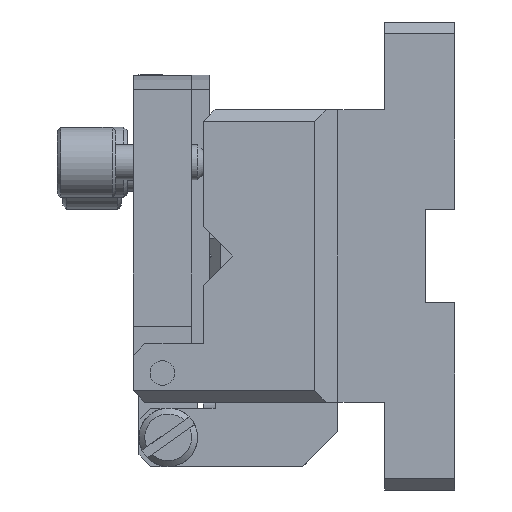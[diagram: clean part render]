
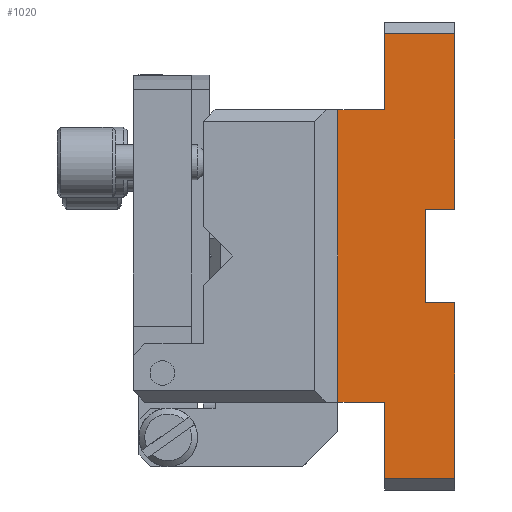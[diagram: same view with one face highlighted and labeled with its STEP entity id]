
A CAD part, left-side view. The second image highlights one B-rep face of the part: STEP entity #1020.
In plain terms, the highlighted planar face has unit normal (-1, 0, 0).
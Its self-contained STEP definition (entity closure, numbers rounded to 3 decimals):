
#5 = ORIENTED_EDGE ( 'NONE', *, *, #6416, .T. ) ;
#93 = VERTEX_POINT ( 'NONE', #11784 ) ;
#157 = CARTESIAN_POINT ( 'NONE',  ( -55., 6., -7.5 ) ) ;
#161 = PLANE ( 'NONE',  #8471 ) ;
#235 = CARTESIAN_POINT ( 'NONE',  ( -55., 10., -7.5 ) ) ;
#600 = EDGE_CURVE ( 'NONE', #1090, #93, #2642, .T. ) ;
#746 = VERTEX_POINT ( 'NONE', #16621 ) ;
#826 = CARTESIAN_POINT ( 'NONE',  ( -55., 0., -24. ) ) ;
#1020 = ADVANCED_FACE ( 'NONE', ( #4606 ), #161, .F. ) ;
#1090 = VERTEX_POINT ( 'NONE', #5988 ) ;
#1283 = VECTOR ( 'NONE', #14408, 1000. ) ;
#1479 = DIRECTION ( 'NONE',  ( 0., -1., 0. ) ) ;
#1593 = ORIENTED_EDGE ( 'NONE', *, *, #600, .T. ) ;
#2061 = ORIENTED_EDGE ( 'NONE', *, *, #17707, .T. ) ;
#2183 = EDGE_CURVE ( 'NONE', #93, #16121, #13012, .T. ) ;
#2216 = CARTESIAN_POINT ( 'NONE',  ( -55., 6., -39. ) ) ;
#2484 = DIRECTION ( 'NONE',  ( 0., 0., 1. ) ) ;
#2512 = VECTOR ( 'NONE', #12161, 1000. ) ;
#2642 = LINE ( 'NONE', #235, #1283 ) ;
#2751 = LINE ( 'NONE', #2216, #2512 ) ;
#2907 = DIRECTION ( 'NONE',  ( 0., 0., -1. ) ) ;
#2920 = ORIENTED_EDGE ( 'NONE', *, *, #12126, .T. ) ;
#2944 = CARTESIAN_POINT ( 'NONE',  ( -55., 2.5, -24. ) ) ;
#3083 = VECTOR ( 'NONE', #16587, 1000. ) ;
#3631 = VERTEX_POINT ( 'NONE', #157 ) ;
#3638 = VECTOR ( 'NONE', #16586, 1000. ) ;
#3743 = ORIENTED_EDGE ( 'NONE', *, *, #10959, .T. ) ;
#3772 = CARTESIAN_POINT ( 'NONE',  ( -55., 2.5, -16. ) ) ;
#3836 = CARTESIAN_POINT ( 'NONE',  ( -55., 0., -16. ) ) ;
#3961 = LINE ( 'NONE', #14354, #17479 ) ;
#4023 = VERTEX_POINT ( 'NONE', #17273 ) ;
#4073 = ORIENTED_EDGE ( 'NONE', *, *, #4892, .T. ) ;
#4189 = EDGE_CURVE ( 'NONE', #3631, #1090, #9014, .T. ) ;
#4606 = FACE_OUTER_BOUND ( 'NONE', #17381, .T. ) ;
#4892 = EDGE_CURVE ( 'NONE', #8252, #3631, #16337, .T. ) ;
#5765 = VERTEX_POINT ( 'NONE', #15993 ) ;
#5827 = VERTEX_POINT ( 'NONE', #13096 ) ;
#5988 = CARTESIAN_POINT ( 'NONE',  ( -55., 10., -7.5 ) ) ;
#6024 = DIRECTION ( 'NONE',  ( 0., 0., -1. ) ) ;
#6092 = CARTESIAN_POINT ( 'NONE',  ( -55., 6., -32.5 ) ) ;
#6416 = EDGE_CURVE ( 'NONE', #16121, #746, #13179, .T. ) ;
#7371 = LINE ( 'NONE', #3772, #3638 ) ;
#7384 = DIRECTION ( 'NONE',  ( 0., 0., 1. ) ) ;
#7488 = CARTESIAN_POINT ( 'NONE',  ( -55., 6., -32.5 ) ) ;
#7549 = LINE ( 'NONE', #2944, #16874 ) ;
#7562 = CARTESIAN_POINT ( 'NONE',  ( -55., 6., -1. ) ) ;
#8184 = LINE ( 'NONE', #3836, #3083 ) ;
#8252 = VERTEX_POINT ( 'NONE', #7562 ) ;
#8419 = CARTESIAN_POINT ( 'NONE',  ( -55., 0., -16. ) ) ;
#8471 = AXIS2_PLACEMENT_3D ( 'NONE', #11350, #12982, #1479 ) ;
#8532 = CARTESIAN_POINT ( 'NONE',  ( -55., 6., -1. ) ) ;
#8655 = EDGE_CURVE ( 'NONE', #13170, #5765, #9545, .T. ) ;
#8680 = DIRECTION ( 'NONE',  ( 0., 1., 0. ) ) ;
#9014 = LINE ( 'NONE', #13972, #16351 ) ;
#9397 = ORIENTED_EDGE ( 'NONE', *, *, #2183, .T. ) ;
#9545 = LINE ( 'NONE', #826, #17315 ) ;
#10604 = EDGE_CURVE ( 'NONE', #4023, #8252, #3961, .T. ) ;
#10959 = EDGE_CURVE ( 'NONE', #5827, #13170, #18347, .T. ) ;
#11058 = ORIENTED_EDGE ( 'NONE', *, *, #17010, .T. ) ;
#11211 = VECTOR ( 'NONE', #2907, 1000. ) ;
#11350 = CARTESIAN_POINT ( 'NONE',  ( -55., 11., 2.8 ) ) ;
#11378 = ORIENTED_EDGE ( 'NONE', *, *, #8655, .T. ) ;
#11549 = CARTESIAN_POINT ( 'NONE',  ( -55., 2.5, -16. ) ) ;
#11570 = CARTESIAN_POINT ( 'NONE',  ( -55., 0., -24. ) ) ;
#11784 = CARTESIAN_POINT ( 'NONE',  ( -55., 10., -32.5 ) ) ;
#12126 = EDGE_CURVE ( 'NONE', #5765, #12138, #7549, .T. ) ;
#12138 = VERTEX_POINT ( 'NONE', #11549 ) ;
#12161 = DIRECTION ( 'NONE',  ( 0., -1., 0. ) ) ;
#12982 = DIRECTION ( 'NONE',  ( 1., 0., 0. ) ) ;
#12988 = CARTESIAN_POINT ( 'NONE',  ( -55., 10., -32.5 ) ) ;
#13012 = LINE ( 'NONE', #12988, #18099 ) ;
#13096 = CARTESIAN_POINT ( 'NONE',  ( -55., 0., -39. ) ) ;
#13170 = VERTEX_POINT ( 'NONE', #11570 ) ;
#13179 = LINE ( 'NONE', #6092, #17377 ) ;
#13498 = EDGE_CURVE ( 'NONE', #14842, #4023, #8184, .T. ) ;
#13593 = ORIENTED_EDGE ( 'NONE', *, *, #4189, .T. ) ;
#13972 = CARTESIAN_POINT ( 'NONE',  ( -55., 6., -7.5 ) ) ;
#14283 = CARTESIAN_POINT ( 'NONE',  ( -55., 0., -39. ) ) ;
#14345 = DIRECTION ( 'NONE',  ( 0., -1., 0. ) ) ;
#14354 = CARTESIAN_POINT ( 'NONE',  ( -55., 0., -1. ) ) ;
#14408 = DIRECTION ( 'NONE',  ( 0., 0., -1. ) ) ;
#14842 = VERTEX_POINT ( 'NONE', #8419 ) ;
#15340 = DIRECTION ( 'NONE',  ( 0., 1., 0. ) ) ;
#15483 = VECTOR ( 'NONE', #2484, 1000. ) ;
#15568 = ORIENTED_EDGE ( 'NONE', *, *, #10604, .T. ) ;
#15993 = CARTESIAN_POINT ( 'NONE',  ( -55., 2.5, -24. ) ) ;
#16121 = VERTEX_POINT ( 'NONE', #7488 ) ;
#16337 = LINE ( 'NONE', #8532, #11211 ) ;
#16351 = VECTOR ( 'NONE', #15340, 1000. ) ;
#16586 = DIRECTION ( 'NONE',  ( 0., -1., 0. ) ) ;
#16587 = DIRECTION ( 'NONE',  ( 0., 0., 1. ) ) ;
#16621 = CARTESIAN_POINT ( 'NONE',  ( -55., 6., -39. ) ) ;
#16874 = VECTOR ( 'NONE', #7384, 1000. ) ;
#17010 = EDGE_CURVE ( 'NONE', #746, #5827, #2751, .T. ) ;
#17273 = CARTESIAN_POINT ( 'NONE',  ( -55., 0., -1. ) ) ;
#17315 = VECTOR ( 'NONE', #17902, 1000. ) ;
#17377 = VECTOR ( 'NONE', #6024, 1000. ) ;
#17381 = EDGE_LOOP ( 'NONE', ( #5, #11058, #3743, #11378, #2920, #2061, #17899, #15568, #4073, #13593, #1593, #9397 ) ) ;
#17479 = VECTOR ( 'NONE', #8680, 1000. ) ;
#17707 = EDGE_CURVE ( 'NONE', #12138, #14842, #7371, .T. ) ;
#17899 = ORIENTED_EDGE ( 'NONE', *, *, #13498, .T. ) ;
#17902 = DIRECTION ( 'NONE',  ( 0., 1., 0. ) ) ;
#18099 = VECTOR ( 'NONE', #14345, 1000. ) ;
#18347 = LINE ( 'NONE', #14283, #15483 ) ;
